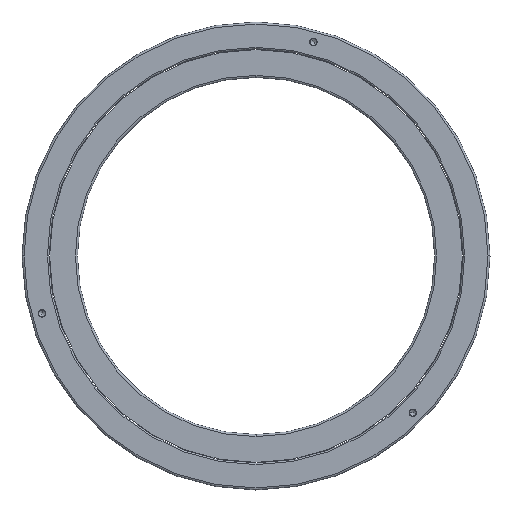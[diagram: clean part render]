
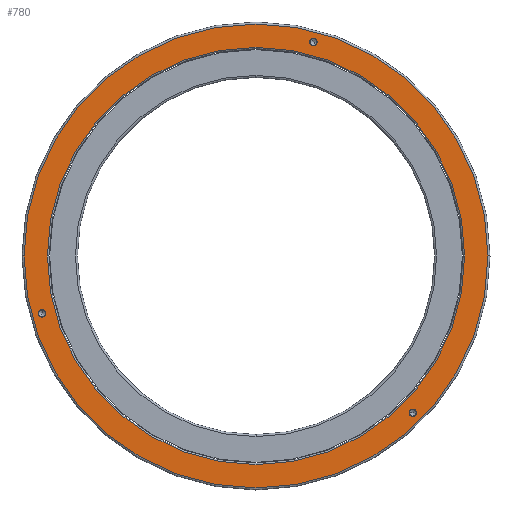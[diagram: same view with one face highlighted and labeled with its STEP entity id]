
A CAD part, front view. The second image highlights one B-rep face of the part: STEP entity #780.
In plain terms, the highlighted planar face has unit normal (0, -1, 0).
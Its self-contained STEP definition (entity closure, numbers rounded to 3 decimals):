
#126=CARTESIAN_POINT('',(0.,-40.,0.));
#127=DIRECTION('',(0.,-1.,0.));
#128=DIRECTION('',(-1.,0.,0.));
#129=AXIS2_PLACEMENT_3D('',#126,#127,#128);
#131=CARTESIAN_POINT('',(0.,-40.,0.));
#132=DIRECTION('',(0.,-1.,0.));
#133=DIRECTION('',(1.,0.,0.));
#134=AXIS2_PLACEMENT_3D('',#131,#132,#133);
#136=CARTESIAN_POINT('',(0.,-40.,0.));
#137=DIRECTION('',(0.,-1.,0.));
#138=DIRECTION('',(1.,0.,0.));
#139=AXIS2_PLACEMENT_3D('',#136,#137,#138);
#141=CARTESIAN_POINT('',(0.,-40.,0.));
#142=DIRECTION('',(0.,-1.,0.));
#143=DIRECTION('',(-1.,0.,0.));
#144=AXIS2_PLACEMENT_3D('',#141,#142,#143);
#146=CARTESIAN_POINT('',(254.558,-40.,-254.558));
#147=DIRECTION('',(0.,-1.,0.));
#148=DIRECTION('',(-1.,0.,0.));
#149=AXIS2_PLACEMENT_3D('',#146,#147,#148);
#151=CARTESIAN_POINT('',(254.558,-40.,-254.558));
#152=DIRECTION('',(0.,-1.,0.));
#153=DIRECTION('',(1.,0.,0.));
#154=AXIS2_PLACEMENT_3D('',#151,#152,#153);
#156=CARTESIAN_POINT('',(-347.733,-40.,-93.175));
#157=DIRECTION('',(0.,-1.,0.));
#158=DIRECTION('',(0.5,0.,0.866));
#159=AXIS2_PLACEMENT_3D('',#156,#157,#158);
#161=CARTESIAN_POINT('',(-347.733,-40.,-93.175));
#162=DIRECTION('',(0.,-1.,0.));
#163=DIRECTION('',(-0.5,0.,-0.866));
#164=AXIS2_PLACEMENT_3D('',#161,#162,#163);
#166=CARTESIAN_POINT('',(93.175,-40.,347.733));
#167=DIRECTION('',(0.,-1.,0.));
#168=DIRECTION('',(0.5,0.,-0.866));
#169=AXIS2_PLACEMENT_3D('',#166,#167,#168);
#171=CARTESIAN_POINT('',(93.175,-40.,347.733));
#172=DIRECTION('',(0.,-1.,0.));
#173=DIRECTION('',(-0.5,0.,0.866));
#174=AXIS2_PLACEMENT_3D('',#171,#172,#173);
#498=CARTESIAN_POINT('',(-376.7,-40.,0.));
#499=CARTESIAN_POINT('',(376.7,-40.,0.));
#500=VERTEX_POINT('',#498);
#501=VERTEX_POINT('',#499);
#518=CARTESIAN_POINT('',(338.75,-40.,0.));
#519=CARTESIAN_POINT('',(-338.75,-40.,0.));
#520=VERTEX_POINT('',#518);
#521=VERTEX_POINT('',#519);
#558=CARTESIAN_POINT('',(249.058,-40.,-254.558));
#559=CARTESIAN_POINT('',(260.058,-40.,-254.558));
#560=VERTEX_POINT('',#558);
#561=VERTEX_POINT('',#559);
#568=CARTESIAN_POINT('',(-344.983,-40.,-88.412));
#569=CARTESIAN_POINT('',(-350.483,-40.,-97.938));
#570=VERTEX_POINT('',#568);
#571=VERTEX_POINT('',#569);
#578=CARTESIAN_POINT('',(95.925,-40.,342.97));
#579=CARTESIAN_POINT('',(90.425,-40.,352.496));
#580=VERTEX_POINT('',#578);
#581=VERTEX_POINT('',#579);
#746=CARTESIAN_POINT('',(0.,-40.,0.));
#747=DIRECTION('',(0.,1.,0.));
#748=DIRECTION('',(1.,0.,0.));
#749=AXIS2_PLACEMENT_3D('',#746,#747,#748);
#750=PLANE('',#749);
#751=ORIENTED_EDGE('',*,*,#729,.F.);
#753=ORIENTED_EDGE('',*,*,#752,.F.);
#754=EDGE_LOOP('',(#751,#753));
#755=FACE_OUTER_BOUND('',#754,.F.);
#757=ORIENTED_EDGE('',*,*,#756,.T.);
#759=ORIENTED_EDGE('',*,*,#758,.T.);
#760=EDGE_LOOP('',(#757,#759));
#761=FACE_BOUND('',#760,.F.);
#763=ORIENTED_EDGE('',*,*,#762,.T.);
#765=ORIENTED_EDGE('',*,*,#764,.T.);
#766=EDGE_LOOP('',(#763,#765));
#767=FACE_BOUND('',#766,.F.);
#769=ORIENTED_EDGE('',*,*,#768,.T.);
#771=ORIENTED_EDGE('',*,*,#770,.T.);
#772=EDGE_LOOP('',(#769,#771));
#773=FACE_BOUND('',#772,.F.);
#775=ORIENTED_EDGE('',*,*,#774,.T.);
#777=ORIENTED_EDGE('',*,*,#776,.T.);
#778=EDGE_LOOP('',(#775,#777));
#779=FACE_BOUND('',#778,.F.);
#130=CIRCLE('',#129,376.7);
#135=CIRCLE('',#134,376.7);
#140=CIRCLE('',#139,338.75);
#145=CIRCLE('',#144,338.75);
#150=CIRCLE('',#149,5.5);
#155=CIRCLE('',#154,5.5);
#160=CIRCLE('',#159,5.5);
#165=CIRCLE('',#164,5.5);
#170=CIRCLE('',#169,5.5);
#175=CIRCLE('',#174,5.5);
#729=EDGE_CURVE('',#500,#501,#130,.T.);
#752=EDGE_CURVE('',#501,#500,#135,.T.);
#756=EDGE_CURVE('',#520,#521,#140,.T.);
#758=EDGE_CURVE('',#521,#520,#145,.T.);
#762=EDGE_CURVE('',#560,#561,#150,.T.);
#764=EDGE_CURVE('',#561,#560,#155,.T.);
#768=EDGE_CURVE('',#570,#571,#160,.T.);
#770=EDGE_CURVE('',#571,#570,#165,.T.);
#774=EDGE_CURVE('',#580,#581,#170,.T.);
#776=EDGE_CURVE('',#581,#580,#175,.T.);
#780=ADVANCED_FACE('',(#755,#761,#767,#773,#779),#750,.F.);
